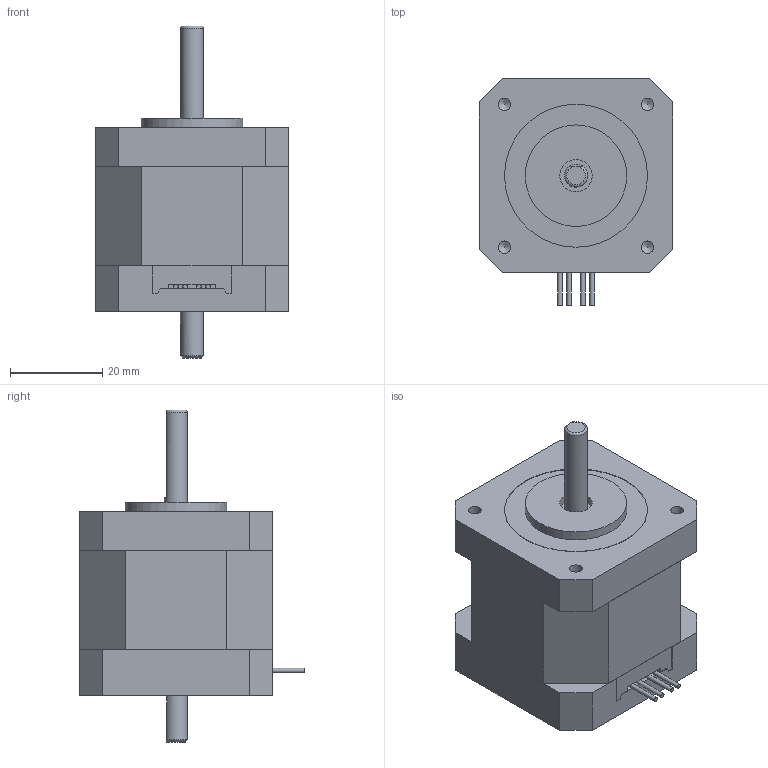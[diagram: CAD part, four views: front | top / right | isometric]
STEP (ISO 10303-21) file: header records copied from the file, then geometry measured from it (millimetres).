
FILE_DESCRIPTION(/* description */ (''),/* implementation_level */ '2;1');
FILE_NAME(/* name */ 'STP-43D2035-01 shuang zhou.stp',/* time_stamp */ '2018-08-13T11:11:06+08:00',/* author */ (''),/* organization */ (''),/* preprocessor_version */ 'ST-DEVELOPER v11',/* originating_system */ 'SIEMENS UGS NX 6.0',/* authorisation */ '');
FILE_SCHEMA (('CONFIG_CONTROL_DESIGN'));
Length unit declared in the file: millimetre
Products named in the file (1): STP-43D2035-01 shuang zhou
Bounding box: 42 x 49 x 72 mm (x, y, z)
Volume: 66103.7 mm3; surface area: 11227.9 mm2
Topology: 5 solids, 5 shells, 145 faces, 357 edges, 238 vertices
Faces by surface type: plane 116, cylinder 19, cone 9, torus 1
Full cylindrical faces by diameter (mm): 1.001 x1, 1.003 x1, 1.006 x1, 1.007 x1, 2.7 x4, 4.414 x4, 5 x2, 7 x2, 8.5 x1, 22 x1, 31 x1
Entity records: 4042 total; most frequent: CARTESIAN_POINT 698, DIRECTION 646, ORIENTED_EDGE 624, EDGE_CURVE 312, LINE 262, VECTOR 262, VERTEX_POINT 224, AXIS2_PLACEMENT_3D 192
